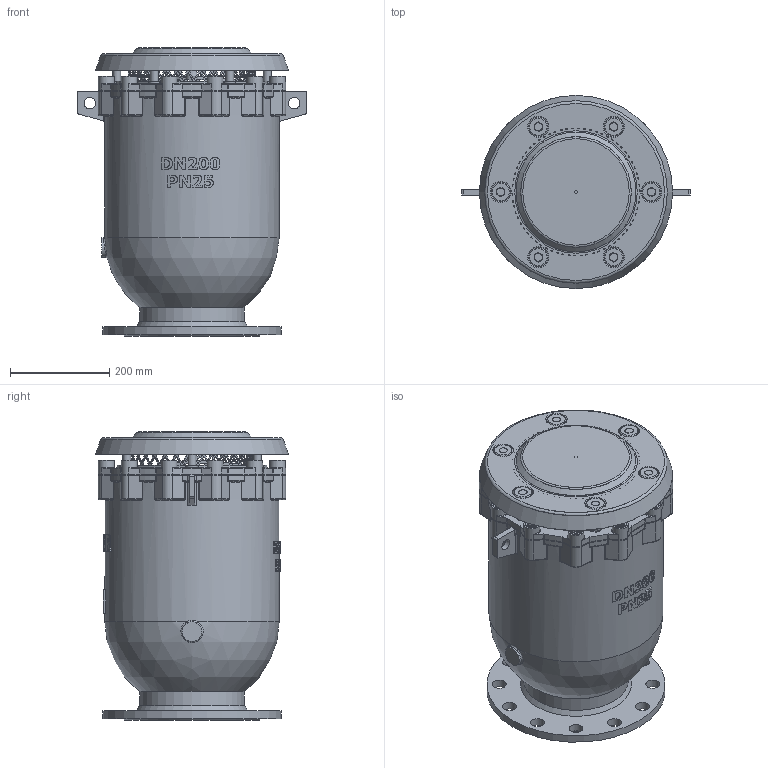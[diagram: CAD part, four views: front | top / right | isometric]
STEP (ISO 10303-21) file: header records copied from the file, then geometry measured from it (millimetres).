
FILE_DESCRIPTION(('STEP AP242'), '1');
FILE_NAME('Âîçäóøíûé êëàïàí DUOJET KX', '', ('UNSPECIFIED'), ('UNSPECIFIED'), 'C3D Converter', 'C3D Toolkit', '');
FILE_SCHEMA(('AP242_MANAGED_MODEL_BASED_3D_ENGINEERING_MIM_LF { 1 0 10303 442 1 1 4 }'));
Length unit declared in the file: millimetre
Assembly tree (45 placements, depth 2):
  (unnamed)
    (unnamed)
    (unnamed)
    (unnamed)
    (unnamed)
    (unnamed)
    (unnamed)
    (unnamed)  x6
    (unnamed)  x6
    (unnamed)
    (unnamed)
    (unnamed)
    (unnamed)  x5
    (unnamed)  x7
    (unnamed)  x6
    (unnamed)  x6
Bounding box: 462 x 390 x 582 mm (x, y, z)
Volume: 8856296.4 mm3; surface area: 3693209.4 mm2
Topology: 59 solids, 60 shells, 2084 faces, 5345 edges, 3436 vertices
Faces by surface type: plane 732, cylinder 508, bspline 495, extrusion 147, torus 107, cone 82, sphere 13
Full cylindrical faces by diameter (mm): 6 x3, 9 x2, 10 x18, 10.5 x6, 11 x12, 12 x6, 16 x54, 22.883 x2, 24 x12, 25.6 x12, 28 x12, 30 x6, 32 x12, 40 x1, 41.117 x1, 50 x2, 56 x1, 200 x2, 212 x1, 256 x2, 258 x1, 265 x2, 271 x1, 288 x1, 292 x2, 304 x2, 338 x2, 340 x3, 352 x1, 360 x1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
Entity records: 145250 total; most frequent: CARTESIAN_POINT 102125, ORIENTED_EDGE 8770, DIRECTION 6251, EDGE_CURVE 4385, VERTEX_POINT 2947, AXIS2_PLACEMENT_3D 2405, EDGE_LOOP 2215, B_SPLINE_CURVE_WITH_KNOTS 1946
